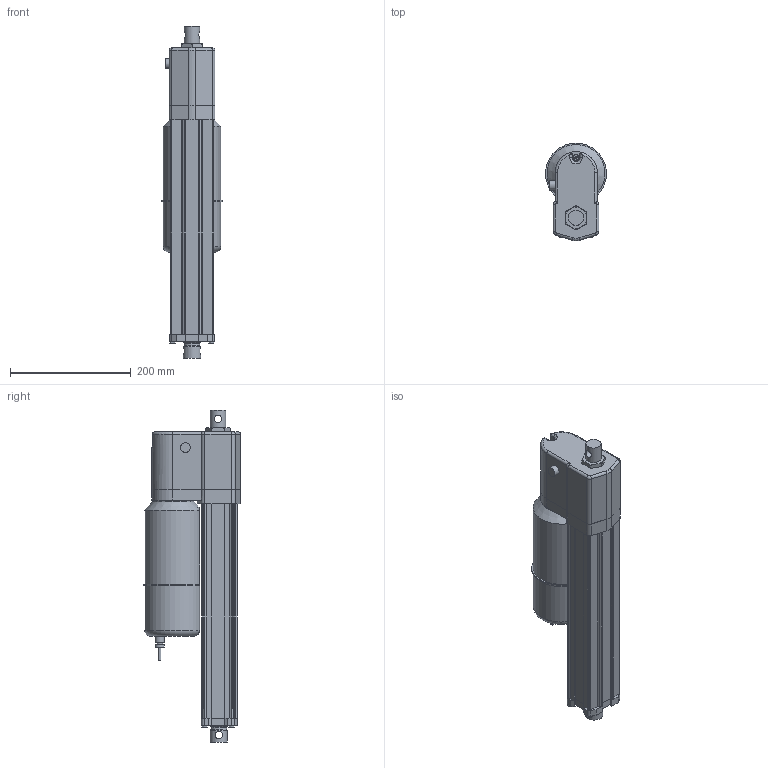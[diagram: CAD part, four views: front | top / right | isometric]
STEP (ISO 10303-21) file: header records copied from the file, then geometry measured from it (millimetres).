
FILE_DESCRIPTION (( 'STEP AP214' ), '1' );
FILE_NAME ('AA22-05B65M-25M0NPO-tollo.step', '2020-04-14T18:50:23', ( '' ), ( '' ), 'SwSTEP 2.0', 'SolidWorks 2010', '' );
FILE_SCHEMA (( 'AUTOMOTIVE_DESIGN' ));
Length unit declared in the file: millimetre
Products named in the file (8): Electrak-LA24-Rod-AA22-05B65M-25M0NPO-tollo_Electrak-LA24-Rod-AA22-05B65M-25M0NPO-tollo; Electrak-LA24-Plate-AA22-05B65M-25M0NPO-tollo_Electrak-LA24-Plate-AA22-05B65M-25M0NPO-tollo; Screw-MFX-H-M5_Screw-MFX-H-M5x24H; Screw-M6S-M5-AA22-05B65M-25M0NPO-tollo_Screw-M6S-M5-AA22-05B65M-25M0NPO-tollo; AA22-05B65M-25M0NPO-tollo; Electrak-LA24-Motor-AA22-05B65M-25M0NPO-tollo_Electrak-LA24-Motor-AA22-05B65M-25M0NPO-tollo; Electrak-LA24-Tube-AA22-05B65M-25M0NPO-tollo_Electrak-LA24-Tube-AA22-05B65M-25M0NPO-tollo; Electrak-LA24-Rear-AA22-05B65M-25M0NPO-tollo_Electrak-LA24-Rear-AA22-05B65M-25M0NPO-tollo
Assembly tree (10 placements, depth 2):
  AA22-05B65M-25M0NPO-tollo
    Electrak-LA24-Tube-AA22-05B65M-25M0NPO-tollo_Electrak-LA24-Tube-AA22-05B65M-25M0NPO-tollo
    Screw-M6S-M5-AA22-05B65M-25M0NPO-tollo_Screw-M6S-M5-AA22-05B65M-25M0NPO-tollo  x4
    Electrak-LA24-Rear-AA22-05B65M-25M0NPO-tollo_Electrak-LA24-Rear-AA22-05B65M-25M0NPO-tollo
    Screw-MFX-H-M5_Screw-MFX-H-M5x24H
    Electrak-LA24-Plate-AA22-05B65M-25M0NPO-tollo_Electrak-LA24-Plate-AA22-05B65M-25M0NPO-tollo
    Electrak-LA24-Rod-AA22-05B65M-25M0NPO-tollo_Electrak-LA24-Rod-AA22-05B65M-25M0NPO-tollo
    Electrak-LA24-Motor-AA22-05B65M-25M0NPO-tollo_Electrak-LA24-Motor-AA22-05B65M-25M0NPO-tollo
Bounding box: 100.99 x 162.5 x 550.7 mm (x, y, z)
Volume: 3288963 mm3; surface area: 410426.7 mm2
Topology: 10 solids, 10 shells, 355 faces, 890 edges, 575 vertices
Faces by surface type: plane 175, cylinder 129, cone 31, torus 15, bspline 3, sphere 2
Full cylindrical faces by diameter (mm): 4 x1, 4.126 x5, 4.8 x6, 5 x5, 5.6 x4, 7.878 x4, 9.3 x1, 10 x1, 12.2 x2, 15 x2, 16 x1, 25.4 x1, 28.6 x4, 47.625 x1, 68 x1
Entity records: 9662 total; most frequent: CARTESIAN_POINT 2403, DIRECTION 1454, ORIENTED_EDGE 1342, EDGE_CURVE 671, AXIS2_PLACEMENT_3D 531, VERTEX_POINT 462, VECTOR 392, LINE 392
